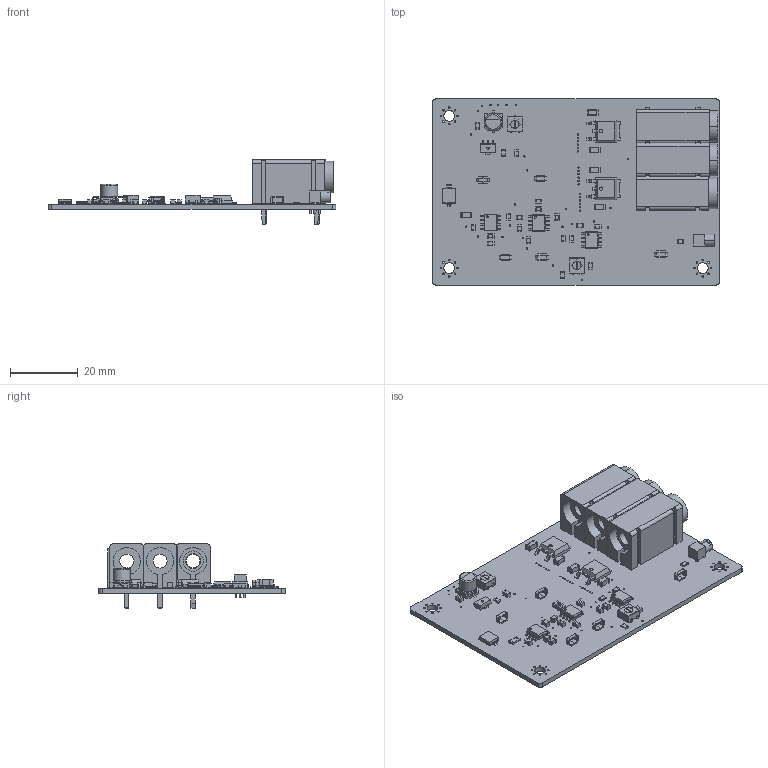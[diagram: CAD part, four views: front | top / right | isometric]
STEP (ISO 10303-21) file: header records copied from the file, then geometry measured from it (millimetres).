
FILE_DESCRIPTION(('KiCad electronic assembly'),'2;1');
FILE_NAME('PCB_model.step','2026-07-30T23:07:44',('Pcbnew'),('Kicad'), 'Open CASCADE STEP processor 7.9','KiCad to STEP converter','Unknown' );
FILE_SCHEMA(('AUTOMOTIVE_DESIGN { 1 0 10303 214 1 1 1 1 }'));
Length unit declared in the file: millimetre
Products named in the file (46): PCB_model 1; Potentiometer_Bourns_3314J_Vertical; VBPW34S--3DModel-STEP-56544; VBPW34S; Test_Point_Keystone_5019_SM; SOIC-8_3.9x4.9mm_P1.27mm; C_0805_2012Metric; R_0805_2012Metric; User Library-Multicomp_24_243_2(black); User Library-Multicomp_24.243.2; TO-252-2; CQ assembly; 932d09b2-9c39-11ed-93f0-dde97e994e83; 932d09b3-9c39-11ed-93f0-dde97e994e83; 932d09b3-9c39-11ed-93f0-dde97e994e83_part; 932d09b4-9c39-11ed-93f0-dde97e994e83; 932d09b4-9c39-11ed-93f0-dde97e994e83_part; 932d09b5-9c39-11ed-93f0-dde97e994e83; 932d09b5-9c39-11ed-93f0-dde97e994e83_part; MMCX-J-P-H-RA-TH1; mmcx-j-p-h-ra-th1; C_1206_3216Metric; CP_Elec_5x5.8; CP_Elec_5x58; R_1206_3216Metric; User Library-Multicomp_24_243_1 (red); User Library-Multicomp_24.243.1; 24.243.5 (Blue); 24.243.5; SOT-89-3; adbeea56-9c39-11ed-93f0-dde97e994e83; adbeea57-9c39-11ed-93f0-dde97e994e83; adbeea57-9c39-11ed-93f0-dde97e994e83_part; adbeea58-9c39-11ed-93f0-dde97e994e83; adbeea58-9c39-11ed-93f0-dde97e994e83_part; adbeea59-9c39-11ed-93f0-dde97e994e83; adbeea59-9c39-11ed-93f0-dde97e994e83_part; detector_PCB
Assembly tree (74 placements, depth 6):
  PCB_model 1
    Potentiometer_Bourns_3314J_Vertical  x2
      Potentiometer_Bourns_3314J_Vertical
    VBPW34S--3DModel-STEP-56544
      VBPW34S
    Test_Point_Keystone_5019_SM  x5
      Test_Point_Keystone_5019_SM
    SOIC-8_3.9x4.9mm_P1.27mm  x3
      SOIC-8_3.9x4.9mm_P1.27mm
    C_0805_2012Metric  x16
      C_0805_2012Metric
    R_0805_2012Metric  x4
      R_0805_2012Metric
    User Library-Multicomp_24_243_2(black)
      User Library-Multicomp_24.243.2
    TO-252-2  x2
      CQ assembly
        932d09b2-9c39-11ed-93f0-dde97e994e83
          932d09b3-9c39-11ed-93f0-dde97e994e83
            932d09b3-9c39-11ed-93f0-dde97e994e83_part
          932d09b4-9c39-11ed-93f0-dde97e994e83
            932d09b4-9c39-11ed-93f0-dde97e994e83_part
          932d09b5-9c39-11ed-93f0-dde97e994e83
            932d09b5-9c39-11ed-93f0-dde97e994e83_part
    MMCX-J-P-H-RA-TH1
      mmcx-j-p-h-ra-th1
    C_1206_3216Metric  x4
      C_1206_3216Metric
    CP_Elec_5x5.8
      CP_Elec_5x58
    R_1206_3216Metric
      R_1206_3216Metric
    User Library-Multicomp_24_243_1 (red)
      User Library-Multicomp_24.243.1
    24.243.5 (Blue)
      24.243.5
    SOT-89-3
      CQ assembly
        adbeea56-9c39-11ed-93f0-dde97e994e83
          adbeea57-9c39-11ed-93f0-dde97e994e83
            adbeea57-9c39-11ed-93f0-dde97e994e83_part
          adbeea58-9c39-11ed-93f0-dde97e994e83
            adbeea58-9c39-11ed-93f0-dde97e994e83_part
          adbeea59-9c39-11ed-93f0-dde97e994e83
            adbeea59-9c39-11ed-93f0-dde97e994e83_part
    detector_PCB
Bounding box: 85 x 55 x 19 mm (x, y, z)
Volume: 14589.9 mm3; surface area: 17498.1 mm2
Topology: 59 solids, 59 shells, 2239 faces, 5815 edges, 3751 vertices
Faces by surface type: plane 1471, cylinder 675, bspline 50, cone 22, torus 12, sphere 8, revolution 1
Full cylindrical faces by diameter (mm): 0.4 x44, 0.5 x24, 0.7 x1, 0.85 x5, 1 x2, 1.8 x6, 3.2 x3, 4 x1, 5 x2, 6 x2
Entity records: 36921 total; most frequent: CARTESIAN_POINT 5752, DIRECTION 5325, ORIENTED_EDGE 5233, EDGE_CURVE 2617, LINE 1924, VECTOR 1924, AXIS2_PLACEMENT_3D 1700, VERTEX_POINT 1679
